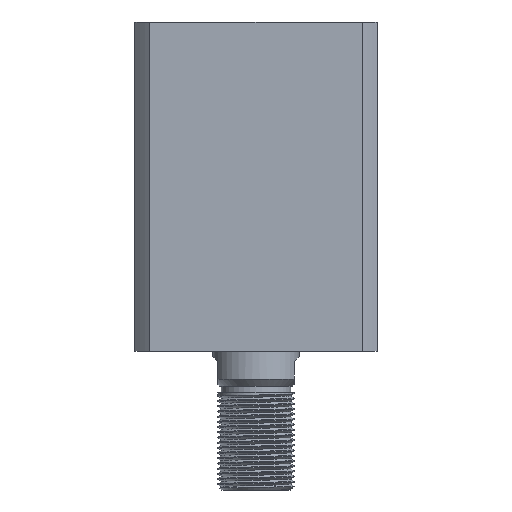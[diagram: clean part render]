
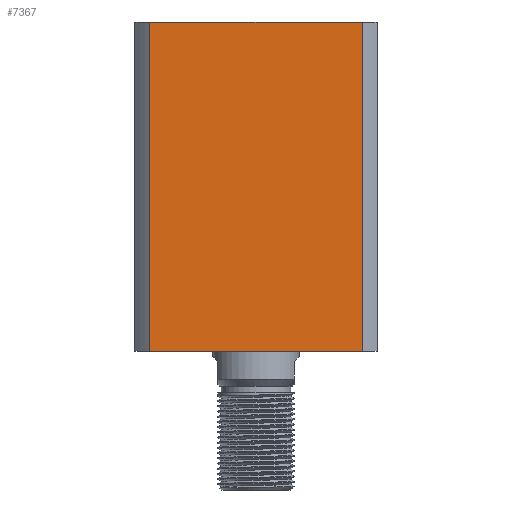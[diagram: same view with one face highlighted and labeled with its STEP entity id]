
A CAD part, left-side view. The second image highlights one B-rep face of the part: STEP entity #7367.
In plain terms, the highlighted planar face has unit normal (-1, 0, 0) as drawn and (0, 1, 0) by its records, which use the part's own axes.
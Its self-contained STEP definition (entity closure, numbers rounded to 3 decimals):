
#493 = AXIS2_PLACEMENT_3D ( 'NONE', #13526, #4134, #11470 ) ;
#988 = PLANE ( 'NONE',  #493 ) ;
#996 = VECTOR ( 'NONE', #8490, 1000. ) ;
#1236 = DIRECTION ( 'NONE',  ( 0., 0., 1. ) ) ;
#1815 = CARTESIAN_POINT ( 'NONE',  ( 30.615, 35., 95. ) ) ;
#2191 = CARTESIAN_POINT ( 'NONE',  ( -30.615, 35., 300. ) ) ;
#2371 = DIRECTION ( 'NONE',  ( -1., 0., 0. ) ) ;
#2505 = CARTESIAN_POINT ( 'NONE',  ( -35., 35., 95. ) ) ;
#3473 = EDGE_LOOP ( 'NONE', ( #5871, #10075, #10547, #13001 ) ) ;
#4082 = LINE ( 'NONE', #9726, #10334 ) ;
#4134 = DIRECTION ( 'NONE',  ( 0., -1., 0. ) ) ;
#4563 = CARTESIAN_POINT ( 'NONE',  ( 30.615, 35., 0. ) ) ;
#4913 = LINE ( 'NONE', #2505, #9196 ) ;
#5510 = VERTEX_POINT ( 'NONE', #13449 ) ;
#5871 = ORIENTED_EDGE ( 'NONE', *, *, #10220, .F. ) ;
#6015 = VERTEX_POINT ( 'NONE', #12493 ) ;
#6130 = VERTEX_POINT ( 'NONE', #4563 ) ;
#6503 = VERTEX_POINT ( 'NONE', #1815 ) ;
#6888 = EDGE_CURVE ( 'NONE', #6503, #6015, #4913, .T. ) ;
#6889 = FACE_OUTER_BOUND ( 'NONE', #3473, .T. ) ;
#7220 = LINE ( 'NONE', #10722, #12454 ) ;
#7367 = ADVANCED_FACE ( 'NONE', ( #6889 ), #988, .F. ) ;
#8490 = DIRECTION ( 'NONE',  ( 0., 0., -1. ) ) ;
#9196 = VECTOR ( 'NONE', #9859, 1000. ) ;
#9705 = LINE ( 'NONE', #2191, #996 ) ;
#9726 = CARTESIAN_POINT ( 'NONE',  ( -35., 35., 0. ) ) ;
#9859 = DIRECTION ( 'NONE',  ( -1., 0., 0. ) ) ;
#10075 = ORIENTED_EDGE ( 'NONE', *, *, #6888, .F. ) ;
#10220 = EDGE_CURVE ( 'NONE', #6015, #5510, #9705, .T. ) ;
#10334 = VECTOR ( 'NONE', #2371, 1000. ) ;
#10547 = ORIENTED_EDGE ( 'NONE', *, *, #12687, .F. ) ;
#10722 = CARTESIAN_POINT ( 'NONE',  ( 30.615, 35., 300. ) ) ;
#11470 = DIRECTION ( 'NONE',  ( 0., 0., -1. ) ) ;
#12454 = VECTOR ( 'NONE', #1236, 1000. ) ;
#12493 = CARTESIAN_POINT ( 'NONE',  ( -30.615, 35., 95. ) ) ;
#12687 = EDGE_CURVE ( 'NONE', #6130, #6503, #7220, .T. ) ;
#12756 = EDGE_CURVE ( 'NONE', #6130, #5510, #4082, .T. ) ;
#13001 = ORIENTED_EDGE ( 'NONE', *, *, #12756, .T. ) ;
#13449 = CARTESIAN_POINT ( 'NONE',  ( -30.615, 35., 0. ) ) ;
#13526 = CARTESIAN_POINT ( 'NONE',  ( -35., 35., 95. ) ) ;
